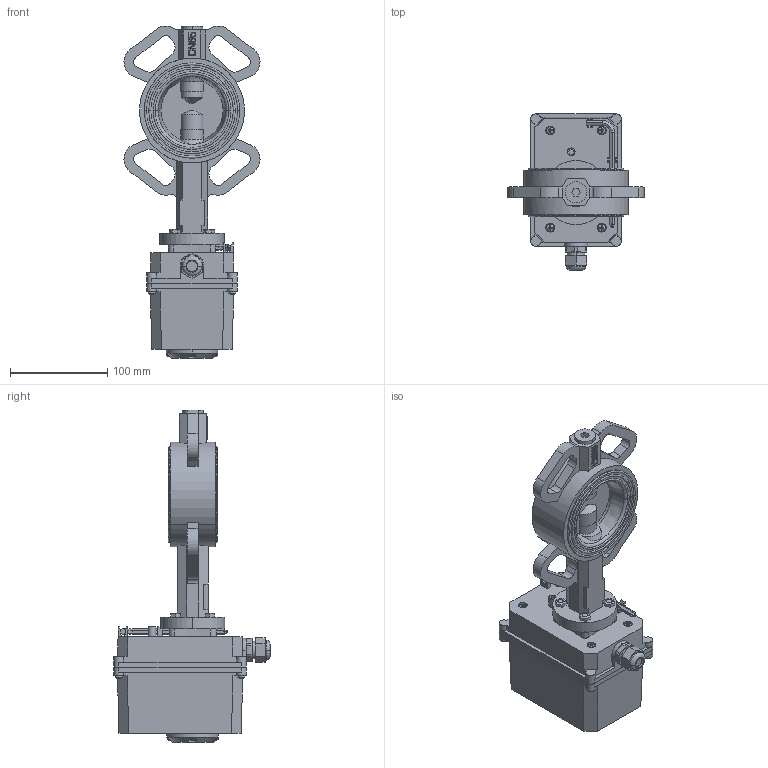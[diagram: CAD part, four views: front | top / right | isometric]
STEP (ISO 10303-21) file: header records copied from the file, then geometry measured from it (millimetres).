
FILE_DESCRIPTION((''),'2;1');
FILE_NAME('VBS_111_EARP_T_ASM','2025-02-21T',('USER'),(''),'PRO/ENGINEER BY PARAMETRIC TECHNOLOGY CORPORATION, 2011220','PRO/ENGINEER BY PARAMETRIC TECHNOLOGY CORPORATION, 2011220','');
FILE_SCHEMA(('CONFIG_CONTROL_DESIGN'));
Length unit declared in the file: millimetre
Products named in the file (20): KORPUS; REZ; DISK; SHTIR_1; ZAGLUSHKA; O-RING; SHTIR_2; SHAIBA_RAZREZ; SHAIBA; KOLCO_22_GOST13943; VTULKA; MANZET_REZ; SB_ASM; B-7798-M6-20; ELECTROPRIVOD; ELECTROPRIVOD_DET_2; SHLYAPKA_VINTA; KLYCH; SB_ELECTROPRIVOD_ASM; VBS_111_EARP_T_ASM
Assembly tree (39 placements, depth 3):
  VBS_111_EARP_T_ASM
    SB_ASM
      KORPUS
      REZ
      DISK
      SHTIR_1
      ZAGLUSHKA
      O-RING  x2
      SHTIR_2
      SHAIBA_RAZREZ
      SHAIBA  x2
      KOLCO_22_GOST13943
      VTULKA  x5
      MANZET_REZ
    B-7798-M6-20  x4
    SB_ELECTROPRIVOD_ASM
      ELECTROPRIVOD
      ELECTROPRIVOD_DET_2
      SHLYAPKA_VINTA  x12
      KLYCH
Bounding box: 139.97 x 160.5 x 341.5 mm (x, y, z)
Volume: 1606078.3 mm3; surface area: 268550 mm2
Topology: 37 solids, 52 shells, 1123 faces, 2852 edges, 1846 vertices
Faces by surface type: plane 709, cylinder 290, cone 66, torus 34, sphere 24
Entity records: 26455 total; most frequent: CARTESIAN_POINT 5000, DIRECTION 4575, ORIENTED_EDGE 4220, EDGE_CURVE 2134, AXIS2_PLACEMENT_3D 1586, VECTOR 1403, LINE 1403, VERTEX_POINT 1394
